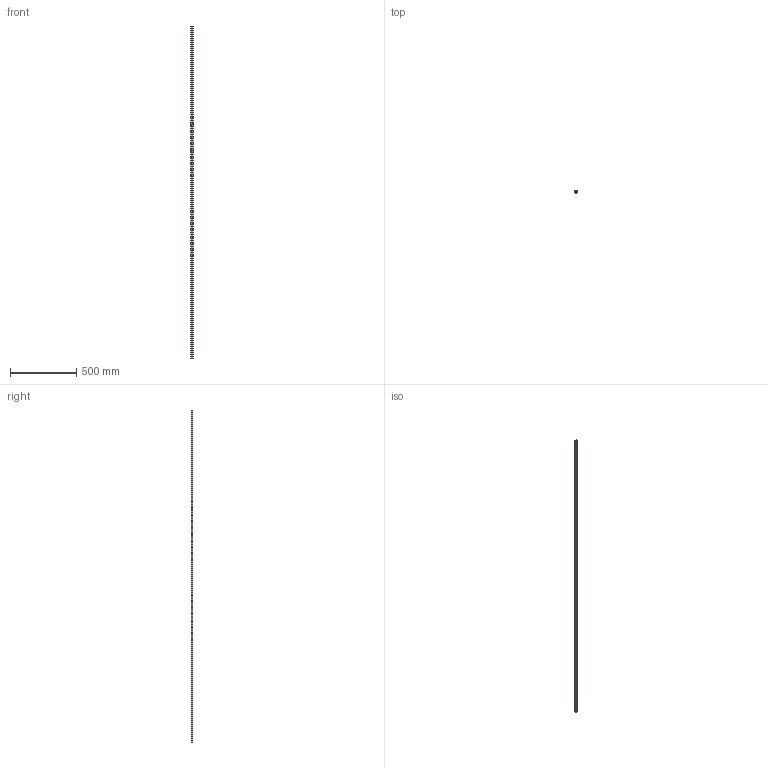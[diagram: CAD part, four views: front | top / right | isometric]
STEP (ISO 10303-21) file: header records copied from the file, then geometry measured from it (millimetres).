
FILE_DESCRIPTION (( 'STEP AP203' ), '1' );
FILE_NAME ('ChannelLine_K2_24.STEP', '2024-11-29T07:24:34', ( '' ), ( '' ), 'SwSTEP 2.0', 'SolidWorks 2023', '' );
FILE_SCHEMA (( 'CONFIG_CONTROL_DESIGN' ));
Length unit declared in the file: millimetre
Products named in the file (3): ChannelLine_K2_24; 2574799_SET_2_5; 2608099_SET_2_5
Assembly tree (2 placements, depth 2):
  ChannelLine_K2_24
    2608099_SET_2_5
    2574799_SET_2_5
Bounding box: 22 x 12.5 x 2500 mm (x, y, z)
Volume: 224948.2 mm3; surface area: 374459.5 mm2
Topology: 2 solids, 2 shells, 150 faces, 438 edges, 292 vertices
Faces by surface type: cylinder 81, plane 69
Entity records: 5329 total; most frequent: DIRECTION 910, CARTESIAN_POINT 885, ORIENTED_EDGE 876, EDGE_CURVE 438, AXIS2_PLACEMENT_3D 317, VERTEX_POINT 292, LINE 276, VECTOR 276
